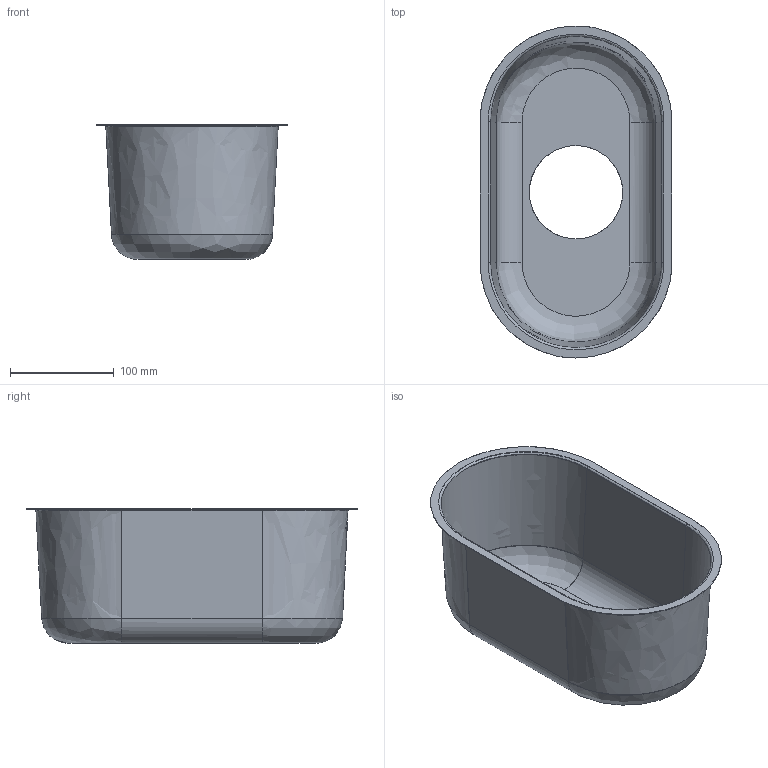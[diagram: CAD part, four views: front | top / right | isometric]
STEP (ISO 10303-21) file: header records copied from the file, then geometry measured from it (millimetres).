
FILE_DESCRIPTION((''),'1');
FILE_NAME('C:/Users/linop/Desktop/UM16.stp','2018-02-26T08:38:09',(''),(''),'Spatial Interop R20 SP1','Kubotek KeyCreator V9.0.3 (16864)',' ');
FILE_SCHEMA(('CONFIG_CONTROL_DESIGN'));
Length unit declared in the file: millimetre
Products named in the file (1): 1
Bounding box: 185 x 320 x 130 mm (x, y, z)
Volume: 92293.9 mm3; surface area: 264500.6 mm2
Topology: 1 solids, 1 shells, 33 faces, 76 edges, 47 vertices
Faces by surface type: bspline 12, cylinder 11, plane 10
Full cylindrical faces by diameter (mm): 90 x1
Entity records: 3347 total; most frequent: CARTESIAN_POINT 2666, ORIENTED_EDGE 150, DIRECTION 87, EDGE_CURVE 75, VERTEX_POINT 47, B_SPLINE_CURVE_WITH_KNOTS 40, EDGE_LOOP 38, ADVANCED_FACE 33
